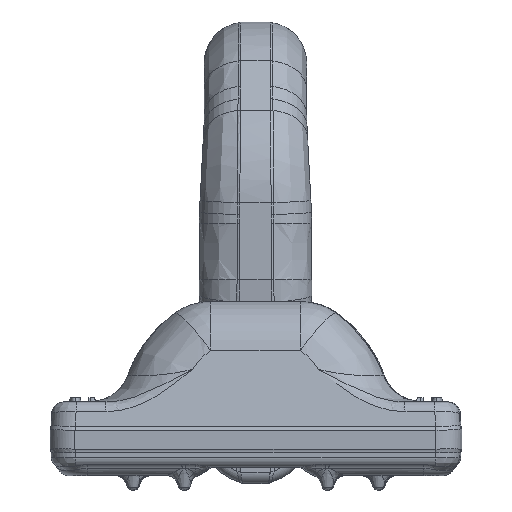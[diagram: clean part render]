
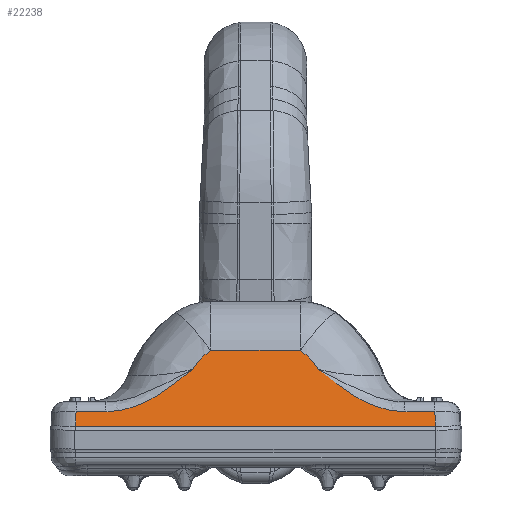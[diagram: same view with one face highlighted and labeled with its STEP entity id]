
A CAD part, left-side view. The second image highlights one B-rep face of the part: STEP entity #22238.
In plain terms, the highlighted planar face has unit normal (-0.978, 0, 0.208).
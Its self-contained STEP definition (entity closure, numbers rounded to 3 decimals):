
#1353=CARTESIAN_POINT('',(-95.572,-15.394,14.171)
);
#1354=VERTEX_POINT('Vertex38',#1353);
#3276=CARTESIAN_POINT('',(-98.513,43.974,0.334)
);
#3277=VERTEX_POINT('Vertex139',#3276);
#3369=CARTESIAN_POINT('',(-98.513,-43.974,0.334
));
#3370=VERTEX_POINT('Vertex140',#3369);
#3378=CARTESIAN_POINT('',(-98.513,0.,
0.334));
#3379=DIRECTION('',(0.,1.,0.));
#3380=VECTOR('',#3379,1.);
#3381=LINE('nurbsCrv188',#3378,#3380);
#3382=EDGE_CURVE('Edge188',#3370,#3277,#3381,.T.);
#12739=CARTESIAN_POINT('',(-97.761,-43.789,3.874)
);
#12740=VERTEX_POINT('Vertex383',#12739);
#12748=CARTESIAN_POINT('',(-98.137,-43.881,2.104
));
#12749=DIRECTION('',(0.208,0.051,0.977));
#12750=VECTOR('',#12749,1.);
#12751=LINE('nurbsCrv588',#12748,#12750);
#12752=EDGE_CURVE('Edge588',#3370,#12740,#12751,.T.);
#14665=CARTESIAN_POINT('',(-97.761,-36.495,3.874
));
#14666=VERTEX_POINT('Vertex404',#14665);
#14667=CARTESIAN_POINT('',(-97.761,-36.495,3.874
));
#14668=CARTESIAN_POINT('',(-97.761,-35.469,3.874)
);
#14669=CARTESIAN_POINT('',(-97.743,-34.437,3.957
));
#14670=CARTESIAN_POINT('',(-97.655,-31.783,4.374)
);
#14671=CARTESIAN_POINT('',(-97.558,-30.183,4.827
));
#14672=CARTESIAN_POINT('',(-97.25,-26.491,6.276)
);
#14673=CARTESIAN_POINT('',(-97.004,-24.444,7.434)
);
#14674=CARTESIAN_POINT('',(-96.366,-20.037,10.437
));
#14675=CARTESIAN_POINT('',(-95.956,-17.781,12.364
));
#14676=CARTESIAN_POINT('',(-95.574,-15.408,14.16
));
#14677=CARTESIAN_POINT('',(-95.573,-15.401,14.166
));
#14678=CARTESIAN_POINT('',(-95.572,-15.394,14.171
));
#14679=B_SPLINE_CURVE_WITH_KNOTS('nurbsCrv632',3,(#14667,#14668,#14669,#14670,
#14671,#14672,#14673,#14674,#14675,#14676,#14677,#14678),.UNSPECIFIED.,.F.,.F.,
(4,2,2,2,2,4),(0.,3.079,8.006,15.016,
23.992,24.018),.UNSPECIFIED.);
#14680=EDGE_CURVE('Edge632',#14666,#1354,#14679,.T.);
#14808=CARTESIAN_POINT('',(-94.574,-10.959,18.869)
);
#14809=VERTEX_POINT('Vertex405',#14808);
#14817=CARTESIAN_POINT('',(-95.572,-15.394,14.171
));
#14818=CARTESIAN_POINT('',(-95.185,-14.229,15.993
));
#14819=CARTESIAN_POINT('',(-94.844,-12.717,17.599
));
#14820=CARTESIAN_POINT('',(-94.574,-10.959,18.869)
);
#14821=B_SPLINE_CURVE_WITH_KNOTS('nurbsCrv635',3,(#14817,#14818,#14819,#14820),
.UNSPECIFIED.,.F.,.F.,(4,4),(-37.505,-30.964),.UNSPECIFIED.
);
#14822=EDGE_CURVE('Edge635',#1354,#14809,#14821,.T.);
#14906=CARTESIAN_POINT('',(-97.761,-40.142,3.874
));
#14907=DIRECTION('',(0.,1.,0.));
#14908=VECTOR('',#14907,1.);
#14909=LINE('nurbsCrv636',#14906,#14908);
#14910=EDGE_CURVE('Edge636',#12740,#14666,#14909,.T.);
#22161=CARTESIAN_POINT('',(-97.761,43.789,3.874)
);
#22162=VERTEX_POINT('Vertex519',#22161);
#22163=CARTESIAN_POINT('',(-98.137,43.881,2.104)
);
#22164=DIRECTION('',(0.208,-0.051,0.977));
#22165=VECTOR('',#22164,1.);
#22166=LINE('nurbsCrv845',#22163,#22165);
#22167=EDGE_CURVE('Edge845',#3277,#22162,#22166,.T.);
#22185=ORIENTED_EDGE('Edgeuse1644',*,*,#3382,.F.);
#22186=ORIENTED_EDGE('Edgeuse1645',*,*,#12752,.T.);
#22187=ORIENTED_EDGE('Edgeuse1646',*,*,#14910,.T.);
#22188=ORIENTED_EDGE('Edgeuse1647',*,*,#14680,.T.);
#22189=ORIENTED_EDGE('Edgeuse1648',*,*,#14822,.T.);
#22190=CARTESIAN_POINT('',(-94.574,10.959,18.869)
);
#22191=VERTEX_POINT('Vertex520',#22190);
#22192=CARTESIAN_POINT('',(-94.574,0.,
18.869));
#22193=DIRECTION('',(0.,-1.,0.));
#22194=VECTOR('',#22193,1.);
#22195=LINE('nurbsCrv847',#22192,#22194);
#22196=EDGE_CURVE('Edge847',#22191,#14809,#22195,.T.);
#22197=ORIENTED_EDGE('Edgeuse1649',*,*,#22196,.F.);
#22198=CARTESIAN_POINT('',(-95.572,15.394,14.171)
);
#22199=VERTEX_POINT('Vertex521',#22198);
#22200=CARTESIAN_POINT('',(-95.572,15.394,14.171)
);
#22201=CARTESIAN_POINT('',(-95.185,14.229,15.993)
);
#22202=CARTESIAN_POINT('',(-94.844,12.717,17.599)
);
#22203=CARTESIAN_POINT('',(-94.574,10.959,18.869)
);
#22204=B_SPLINE_CURVE_WITH_KNOTS('nurbsCrv848',3,(#22200,#22201,#22202,#22203),
.UNSPECIFIED.,.F.,.F.,(4,4),(-37.505,-30.964),.UNSPECIFIED.
);
#22205=EDGE_CURVE('Edge848',#22199,#22191,#22204,.T.);
#22206=ORIENTED_EDGE('Edgeuse1650',*,*,#22205,.F.);
#22207=CARTESIAN_POINT('',(-97.761,36.495,3.874)
);
#22208=VERTEX_POINT('Vertex522',#22207);
#22209=CARTESIAN_POINT('',(-97.761,36.495,3.874)
);
#22210=CARTESIAN_POINT('',(-97.761,35.469,3.874)
);
#22211=CARTESIAN_POINT('',(-97.743,34.437,3.957)
);
#22212=CARTESIAN_POINT('',(-97.655,31.783,4.374)
);
#22213=CARTESIAN_POINT('',(-97.558,30.183,4.827)
);
#22214=CARTESIAN_POINT('',(-97.25,26.491,6.276)
);
#22215=CARTESIAN_POINT('',(-97.004,24.444,7.434));
#22216=CARTESIAN_POINT('',(-96.366,20.037,10.437)
);
#22217=CARTESIAN_POINT('',(-95.956,17.781,12.364)
);
#22218=CARTESIAN_POINT('',(-95.574,15.408,14.16)
);
#22219=CARTESIAN_POINT('',(-95.573,15.401,14.166)
);
#22220=CARTESIAN_POINT('',(-95.572,15.394,14.171)
);
#22221=B_SPLINE_CURVE_WITH_KNOTS('nurbsCrv849',3,(#22209,#22210,#22211,#22212,
#22213,#22214,#22215,#22216,#22217,#22218,#22219,#22220),.UNSPECIFIED.,.F.,.F.,
(4,2,2,2,2,4),(0.,3.079,8.006,15.016,
23.992,24.018),.UNSPECIFIED.);
#22222=EDGE_CURVE('Edge849',#22208,#22199,#22221,.T.);
#22223=ORIENTED_EDGE('Edgeuse1651',*,*,#22222,.F.);
#22224=CARTESIAN_POINT('',(-97.761,40.142,3.874)
);
#22225=DIRECTION('',(0.,-1.,0.));
#22226=VECTOR('',#22225,1.);
#22227=LINE('nurbsCrv850',#22224,#22226);
#22228=EDGE_CURVE('Edge850',#22162,#22208,#22227,.T.);
#22229=ORIENTED_EDGE('Edgeuse1652',*,*,#22228,.F.);
#22230=ORIENTED_EDGE('Edgeuse1653',*,*,#22167,.F.);
#22231=EDGE_LOOP('',(#22185,#22186,#22187,#22188,#22189,#22197,#22206,#22223,
#22229,#22230));
#22232=FACE_OUTER_BOUND('',#22231,.T.);
#22233=CARTESIAN_POINT('',(-97.297,-0.932,6.055)
);
#22234=DIRECTION('',(-0.978,0.,0.208
));
#22235=DIRECTION('',(-0.042,-0.979,-0.199)
);
#22236=AXIS2_PLACEMENT_3D('',#22233,#22234,#22235);
#22237=PLANE('nurbsSrf345',#22236);
#22238=ADVANCED_FACE('Face345',(#22232),#22237,.T.);
